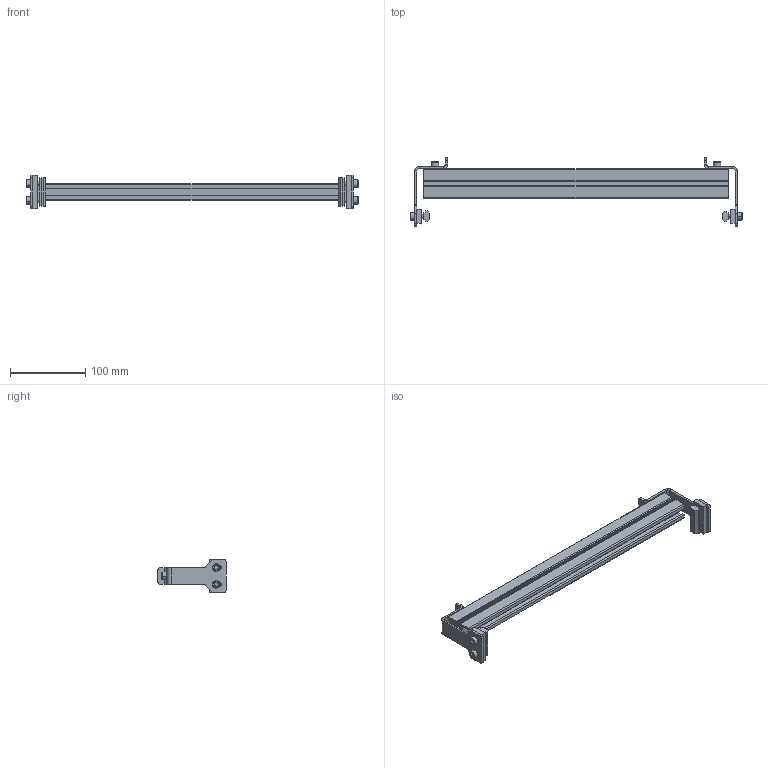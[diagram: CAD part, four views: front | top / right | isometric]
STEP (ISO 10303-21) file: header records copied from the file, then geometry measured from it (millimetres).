
FILE_DESCRIPTION (( 'STEP AP203' ), '1' );
FILE_NAME ('207137-16.STEP', '2023-03-01T21:16:33', ( '' ), ( '' ), 'SwSTEP 2.0', 'SolidWorks 2020', '' );
FILE_SCHEMA (( 'CONFIG_CONTROL_DESIGN' ));
Length unit declared in the file: inch
Products named in the file (8): 9206XXM_920614M; 202444; 207134; 200626M; 207137-16; 639971M_CAE; 207135-WW_207135-16; 9206XXM_920620M
Assembly tree (15 placements, depth 2):
  207137-16
    207134  x2
    207135-WW_207135-16
    202444  x2
    200626M  x2
    639971M_CAE  x2
    9206XXM_920614M  x2
    9206XXM_920620M  x4
Bounding box: 442.17 x 90.68 x 44.45 mm (x, y, z)
Volume: 209676.3 mm3; surface area: 130014.5 mm2
Topology: 15 solids, 15 shells, 432 faces, 1042 edges, 652 vertices
Faces by surface type: plane 258, cylinder 108, cone 66
Entity records: 8328 total; most frequent: CARTESIAN_POINT 1374, DIRECTION 1230, ORIENTED_EDGE 1212, EDGE_CURVE 606, VECTOR 462, LINE 462, VERTEX_POINT 388, AXIS2_PLACEMENT_3D 384
